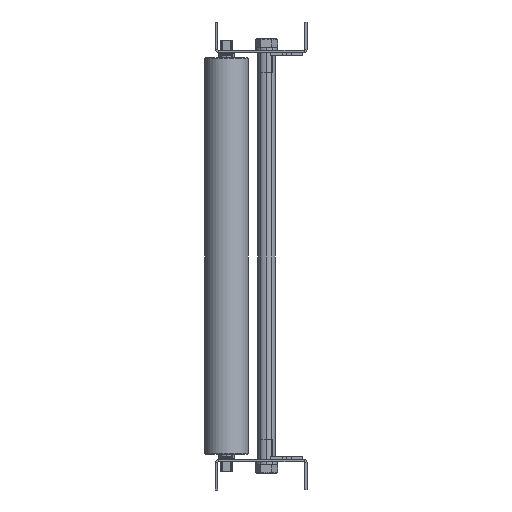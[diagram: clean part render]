
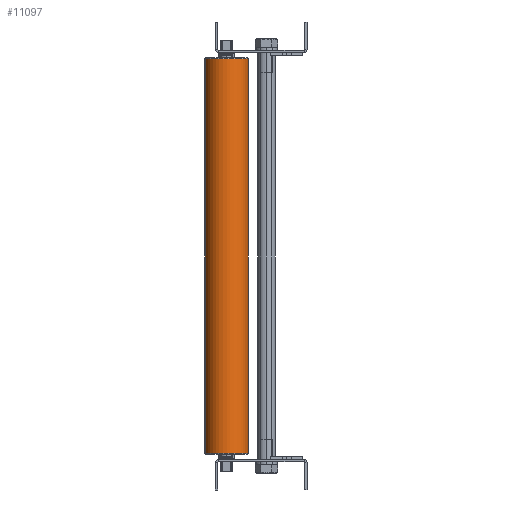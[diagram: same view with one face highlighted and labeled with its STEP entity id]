
A CAD part, left-side view. The second image highlights one B-rep face of the part: STEP entity #11097.
In plain terms, the highlighted cylindrical face has radius 21.35 mm (diameter 42.7 mm), a partial arc.
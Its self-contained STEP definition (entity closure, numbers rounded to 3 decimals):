
#720 = CIRCLE ( 'NONE', #10969, 21.35 ) ;
#927 = AXIS2_PLACEMENT_3D ( 'NONE', #47919, #11376, #27639 ) ;
#2149 = CARTESIAN_POINT ( 'NONE',  ( -1226.99, 242.85, -408.1 ) ) ;
#2197 = ORIENTED_EDGE ( 'NONE', *, *, #8833, .T. ) ;
#5650 = DIRECTION ( 'NONE',  ( -0.167, 0.986, 0. ) ) ;
#5911 = LINE ( 'NONE', #38444, #11614 ) ;
#8833 = EDGE_CURVE ( 'NONE', #35916, #48565, #720, .T. ) ;
#9364 = VERTEX_POINT ( 'NONE', #23963 ) ;
#9805 = CIRCLE ( 'NONE', #29424, 21.35 ) ;
#10969 = AXIS2_PLACEMENT_3D ( 'NONE', #2149, #22443, #5650 ) ;
#11097 = ADVANCED_FACE ( 'NONE', ( #15373 ), #31636, .T. ) ;
#11376 = DIRECTION ( 'NONE',  ( 0., 0., 1. ) ) ;
#11614 = VECTOR ( 'NONE', #34173, 1000. ) ;
#12064 = DIRECTION ( 'NONE',  ( 0., 0., 1. ) ) ;
#12281 = CARTESIAN_POINT ( 'NONE',  ( -1230.549, 263.902, -20.1 ) ) ;
#12667 = EDGE_CURVE ( 'NONE', #35916, #27285, #16862, .T. ) ;
#12883 = CARTESIAN_POINT ( 'NONE',  ( -1223.432, 221.799, -408.1 ) ) ;
#15373 = FACE_OUTER_BOUND ( 'NONE', #25474, .T. ) ;
#16862 = LINE ( 'NONE', #45415, #52063 ) ;
#17886 = ORIENTED_EDGE ( 'NONE', *, *, #29267, .T. ) ;
#20715 = ORIENTED_EDGE ( 'NONE', *, *, #12667, .F. ) ;
#21551 = EDGE_CURVE ( 'NONE', #9364, #27285, #9805, .T. ) ;
#22443 = DIRECTION ( 'NONE',  ( 0., 0., 1. ) ) ;
#23963 = CARTESIAN_POINT ( 'NONE',  ( -1223.432, 221.799, -20.1 ) ) ;
#25474 = EDGE_LOOP ( 'NONE', ( #2197, #17886, #41373, #20715 ) ) ;
#26984 = DIRECTION ( 'NONE',  ( 0., 0., -1. ) ) ;
#27285 = VERTEX_POINT ( 'NONE', #12281 ) ;
#27639 = DIRECTION ( 'NONE',  ( -0.167, 0.986, 0. ) ) ;
#28041 = DIRECTION ( 'NONE',  ( 0.167, -0.986, 0. ) ) ;
#29267 = EDGE_CURVE ( 'NONE', #48565, #9364, #5911, .T. ) ;
#29424 = AXIS2_PLACEMENT_3D ( 'NONE', #50217, #26984, #28041 ) ;
#31636 = CYLINDRICAL_SURFACE ( 'NONE', #927, 21.35 ) ;
#33092 = CARTESIAN_POINT ( 'NONE',  ( -1230.549, 263.902, -408.1 ) ) ;
#34173 = DIRECTION ( 'NONE',  ( 0., 0., 1. ) ) ;
#35916 = VERTEX_POINT ( 'NONE', #33092 ) ;
#38444 = CARTESIAN_POINT ( 'NONE',  ( -1223.432, 221.799, 325.941 ) ) ;
#41373 = ORIENTED_EDGE ( 'NONE', *, *, #21551, .T. ) ;
#45415 = CARTESIAN_POINT ( 'NONE',  ( -1230.549, 263.902, 325.941 ) ) ;
#47919 = CARTESIAN_POINT ( 'NONE',  ( -1226.99, 242.85, 325.941 ) ) ;
#48565 = VERTEX_POINT ( 'NONE', #12883 ) ;
#50217 = CARTESIAN_POINT ( 'NONE',  ( -1226.99, 242.85, -20.1 ) ) ;
#52063 = VECTOR ( 'NONE', #12064, 1000. ) ;
